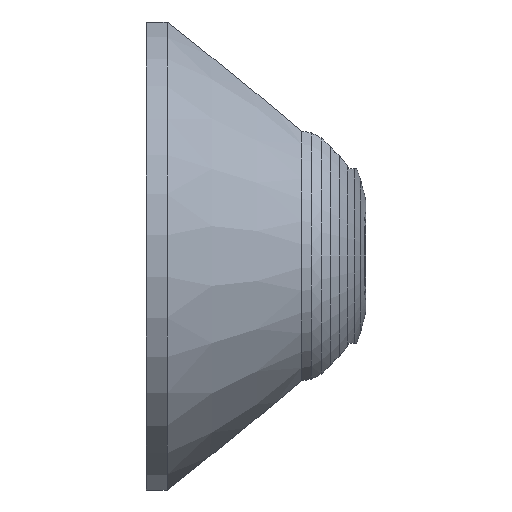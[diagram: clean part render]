
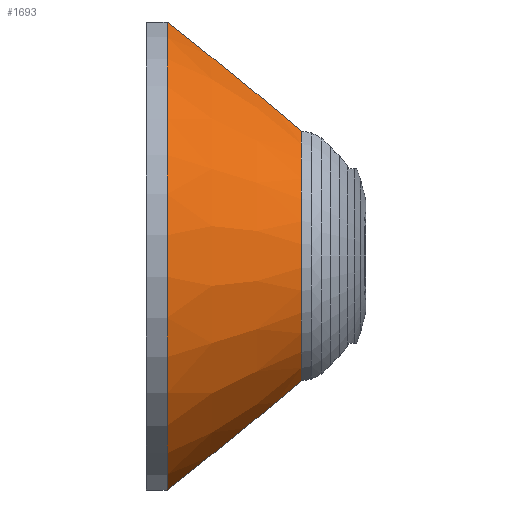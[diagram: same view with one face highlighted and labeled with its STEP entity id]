
A CAD part, front view. The second image highlights one B-rep face of the part: STEP entity #1693.
In plain terms, the highlighted conical face has half-angle 36.989 degrees and reference radius 14 mm.
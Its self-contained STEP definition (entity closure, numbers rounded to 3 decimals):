
#128 = PLANE('',#129);
#129 = AXIS2_PLACEMENT_3D('',#130,#131,#132);
#130 = CARTESIAN_POINT('',(445.8,-4.,-5.));
#131 = DIRECTION('',(-0.,1.,-0.));
#132 = DIRECTION('',(-1.,0.,0.));
#156 = CYLINDRICAL_SURFACE('',#157,14.);
#157 = AXIS2_PLACEMENT_3D('',#158,#159,#160);
#158 = CARTESIAN_POINT('',(447.1,0.,0.));
#159 = DIRECTION('',(1.,0.,0.));
#160 = DIRECTION('',(-0.,1.,0.));
#183 = PLANE('',#184);
#184 = AXIS2_PLACEMENT_3D('',#185,#186,#187);
#185 = CARTESIAN_POINT('',(445.8,-4.,5.));
#186 = DIRECTION('',(0.,1.,0.));
#187 = DIRECTION('',(1.,0.,0.));
#1571 = CONICAL_SURFACE('',#1572,8.2,0.146);
#1572 = AXIS2_PLACEMENT_3D('',#1573,#1574,#1575);
#1573 = CARTESIAN_POINT('',(456.,0.,0.));
#1574 = DIRECTION('',(-1.,-0.,-0.));
#1575 = DIRECTION('',(-0.,1.,0.));
#1613 = VERTEX_POINT('',#1614);
#1614 = CARTESIAN_POINT('',(456.,-4.,7.158));
#1639 = EDGE_CURVE('',#1613,#1640,#1642,.T.);
#1640 = VERTEX_POINT('',#1641);
#1641 = CARTESIAN_POINT('',(456.,-4.,-7.158));
#1642 = SURFACE_CURVE('',#1643,(#1648,#1655),.PCURVE_S1.);
#1643 = CIRCLE('',#1644,8.2);
#1644 = AXIS2_PLACEMENT_3D('',#1645,#1646,#1647);
#1645 = CARTESIAN_POINT('',(456.,0.,0.));
#1646 = DIRECTION('',(1.,0.,0.));
#1647 = DIRECTION('',(-0.,1.,0.));
#1648 = PCURVE('',#1571,#1649);
#1649 = DEFINITIONAL_REPRESENTATION('',(#1650),#1654);
#1650 = LINE('',#1651,#1652);
#1651 = CARTESIAN_POINT('',(-0.,-0.));
#1652 = VECTOR('',#1653,1.);
#1653 = DIRECTION('',(-1.,-0.));
#1654 = ( GEOMETRIC_REPRESENTATION_CONTEXT(2) 
PARAMETRIC_REPRESENTATION_CONTEXT() REPRESENTATION_CONTEXT('2D SPACE',''
  ) );
#1655 = PCURVE('',#1656,#1661);
#1656 = CONICAL_SURFACE('',#1657,14.,0.646);
#1657 = AXIS2_PLACEMENT_3D('',#1658,#1659,#1660);
#1658 = CARTESIAN_POINT('',(448.3,0.,0.));
#1659 = DIRECTION('',(-1.,-0.,-0.));
#1660 = DIRECTION('',(-0.,1.,0.));
#1661 = DEFINITIONAL_REPRESENTATION('',(#1662),#1666);
#1662 = LINE('',#1663,#1664);
#1663 = CARTESIAN_POINT('',(-0.,-7.7));
#1664 = VECTOR('',#1665,1.);
#1665 = DIRECTION('',(-1.,-0.));
#1666 = ( GEOMETRIC_REPRESENTATION_CONTEXT(2) 
PARAMETRIC_REPRESENTATION_CONTEXT() REPRESENTATION_CONTEXT('2D SPACE',''
  ) );
#1693 = ADVANCED_FACE('',(#1694),#1656,.T.);
#1694 = FACE_BOUND('',#1695,.T.);
#1695 = EDGE_LOOP('',(#1696,#1724,#1748,#1774));
#1696 = ORIENTED_EDGE('',*,*,#1697,.T.);
#1697 = EDGE_CURVE('',#1613,#1698,#1700,.T.);
#1698 = VERTEX_POINT('',#1699);
#1699 = CARTESIAN_POINT('',(448.3,-4.,13.416));
#1700 = SURFACE_CURVE('',#1701,(#1706,#1717),.PCURVE_S1.);
#1701 = HYPERBOLA('',#1702,5.31,4.);
#1702 = AXIS2_PLACEMENT_3D('',#1703,#1704,#1705);
#1703 = CARTESIAN_POINT('',(466.886,-4.,0.));
#1704 = DIRECTION('',(0.,1.,0.));
#1705 = DIRECTION('',(-1.,0.,0.));
#1706 = PCURVE('',#1656,#1707);
#1707 = DEFINITIONAL_REPRESENTATION('',(#1708),#1716);
#1708 = B_SPLINE_CURVE_WITH_KNOTS('',6,(#1709,#1710,#1711,#1712,#1713,
    #1714,#1715),.UNSPECIFIED.,.F.,.F.,(7,7),(1.345,
    1.925),.PIECEWISE_BEZIER_KNOTS.);
#1709 = CARTESIAN_POINT('',(-2.08,-7.7));
#1710 = CARTESIAN_POINT('',(-2.033,-6.782));
#1711 = CARTESIAN_POINT('',(-1.991,-5.742));
#1712 = CARTESIAN_POINT('',(-1.953,-4.566));
#1713 = CARTESIAN_POINT('',(-1.919,-3.232));
#1714 = CARTESIAN_POINT('',(-1.888,-1.72));
#1715 = CARTESIAN_POINT('',(-1.861,0.));
#1716 = ( GEOMETRIC_REPRESENTATION_CONTEXT(2) 
PARAMETRIC_REPRESENTATION_CONTEXT() REPRESENTATION_CONTEXT('2D SPACE',''
  ) );
#1717 = PCURVE('',#183,#1718);
#1718 = DEFINITIONAL_REPRESENTATION('',(#1719),#1723);
#1719 = ( BOUNDED_CURVE() B_SPLINE_CURVE(2,(#1720,#1721,#1722),
.UNSPECIFIED.,.F.,.F.) B_SPLINE_CURVE_WITH_KNOTS((3,3),(1.345,
1.925),.PIECEWISE_BEZIER_KNOTS.) CURVE() 
GEOMETRIC_REPRESENTATION_ITEM() RATIONAL_B_SPLINE_CURVE((1.,
1.042,1.)) REPRESENTATION_ITEM('') );
#1720 = CARTESIAN_POINT('',(10.2,-2.158));
#1721 = CARTESIAN_POINT('',(7.521,-4.47));
#1722 = CARTESIAN_POINT('',(2.5,-8.416));
#1723 = ( GEOMETRIC_REPRESENTATION_CONTEXT(2) 
PARAMETRIC_REPRESENTATION_CONTEXT() REPRESENTATION_CONTEXT('2D SPACE',''
  ) );
#1724 = ORIENTED_EDGE('',*,*,#1725,.T.);
#1725 = EDGE_CURVE('',#1698,#1726,#1728,.T.);
#1726 = VERTEX_POINT('',#1727);
#1727 = CARTESIAN_POINT('',(448.3,-4.,-13.416));
#1728 = SURFACE_CURVE('',#1729,(#1734,#1741),.PCURVE_S1.);
#1729 = CIRCLE('',#1730,14.);
#1730 = AXIS2_PLACEMENT_3D('',#1731,#1732,#1733);
#1731 = CARTESIAN_POINT('',(448.3,0.,0.));
#1732 = DIRECTION('',(1.,0.,0.));
#1733 = DIRECTION('',(-0.,1.,0.));
#1734 = PCURVE('',#1656,#1735);
#1735 = DEFINITIONAL_REPRESENTATION('',(#1736),#1740);
#1736 = LINE('',#1737,#1738);
#1737 = CARTESIAN_POINT('',(-0.,-0.));
#1738 = VECTOR('',#1739,1.);
#1739 = DIRECTION('',(-1.,-0.));
#1740 = ( GEOMETRIC_REPRESENTATION_CONTEXT(2) 
PARAMETRIC_REPRESENTATION_CONTEXT() REPRESENTATION_CONTEXT('2D SPACE',''
  ) );
#1741 = PCURVE('',#156,#1742);
#1742 = DEFINITIONAL_REPRESENTATION('',(#1743),#1747);
#1743 = LINE('',#1744,#1745);
#1744 = CARTESIAN_POINT('',(0.,1.2));
#1745 = VECTOR('',#1746,1.);
#1746 = DIRECTION('',(1.,0.));
#1747 = ( GEOMETRIC_REPRESENTATION_CONTEXT(2) 
PARAMETRIC_REPRESENTATION_CONTEXT() REPRESENTATION_CONTEXT('2D SPACE',''
  ) );
#1748 = ORIENTED_EDGE('',*,*,#1749,.F.);
#1749 = EDGE_CURVE('',#1640,#1726,#1750,.T.);
#1750 = SURFACE_CURVE('',#1751,(#1756,#1767),.PCURVE_S1.);
#1751 = HYPERBOLA('',#1752,5.31,4.);
#1752 = AXIS2_PLACEMENT_3D('',#1753,#1754,#1755);
#1753 = CARTESIAN_POINT('',(466.886,-4.,0.));
#1754 = DIRECTION('',(0.,-1.,0.));
#1755 = DIRECTION('',(-1.,-0.,0.));
#1756 = PCURVE('',#1656,#1757);
#1757 = DEFINITIONAL_REPRESENTATION('',(#1758),#1766);
#1758 = B_SPLINE_CURVE_WITH_KNOTS('',6,(#1759,#1760,#1761,#1762,#1763,
    #1764,#1765),.UNSPECIFIED.,.F.,.F.,(7,7),(1.345,
    1.925),.PIECEWISE_BEZIER_KNOTS.);
#1759 = CARTESIAN_POINT('',(-4.203,-7.7));
#1760 = CARTESIAN_POINT('',(-4.25,-6.782));
#1761 = CARTESIAN_POINT('',(-4.292,-5.742));
#1762 = CARTESIAN_POINT('',(-4.33,-4.566));
#1763 = CARTESIAN_POINT('',(-4.364,-3.232));
#1764 = CARTESIAN_POINT('',(-4.395,-1.72));
#1765 = CARTESIAN_POINT('',(-4.423,0.));
#1766 = ( GEOMETRIC_REPRESENTATION_CONTEXT(2) 
PARAMETRIC_REPRESENTATION_CONTEXT() REPRESENTATION_CONTEXT('2D SPACE',''
  ) );
#1767 = PCURVE('',#128,#1768);
#1768 = DEFINITIONAL_REPRESENTATION('',(#1769),#1773);
#1769 = ( BOUNDED_CURVE() B_SPLINE_CURVE(2,(#1770,#1771,#1772),
.UNSPECIFIED.,.F.,.F.) B_SPLINE_CURVE_WITH_KNOTS((3,3),(1.345,
1.925),.PIECEWISE_BEZIER_KNOTS.) CURVE() 
GEOMETRIC_REPRESENTATION_ITEM() RATIONAL_B_SPLINE_CURVE((1.,
1.042,1.)) REPRESENTATION_ITEM('') );
#1770 = CARTESIAN_POINT('',(-10.2,-2.158));
#1771 = CARTESIAN_POINT('',(-7.521,-4.47));
#1772 = CARTESIAN_POINT('',(-2.5,-8.416));
#1773 = ( GEOMETRIC_REPRESENTATION_CONTEXT(2) 
PARAMETRIC_REPRESENTATION_CONTEXT() REPRESENTATION_CONTEXT('2D SPACE',''
  ) );
#1774 = ORIENTED_EDGE('',*,*,#1639,.F.);
